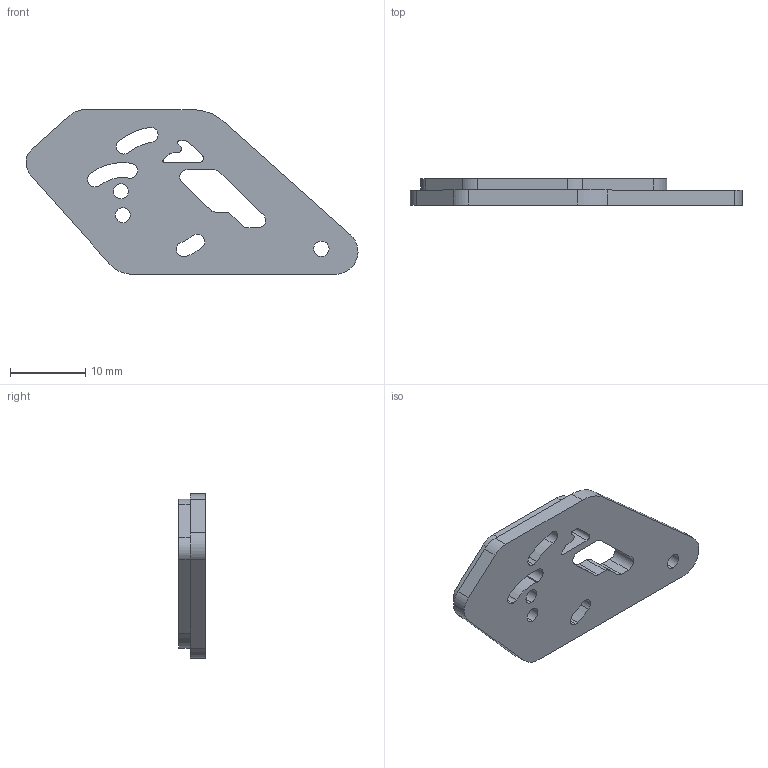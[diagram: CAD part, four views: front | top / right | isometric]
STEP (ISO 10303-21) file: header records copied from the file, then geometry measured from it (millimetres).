
FILE_DESCRIPTION (( 'STEP AP214' ), '1' );
FILE_NAME ('ｾｵﾍｷｵ譽ｨｵｹｽﾇｼﾓﾂﾝﾋｿｿﾗ｣ｩ.STEP', '2025-07-22T06:56:17', ( '' ), ( '' ), 'SwSTEP 2.0', 'SolidWorks 2024', '' );
FILE_SCHEMA (( 'AUTOMOTIVE_DESIGN' ));
Length unit declared in the file: millimetre
Products named in the file (1): 镜头垫（倒角加螺丝孔）
Bounding box: 44.18 x 3.5 x 21.9 mm (x, y, z)
Volume: 1780.7 mm3; surface area: 1884.5 mm2
Topology: 1 solids, 1 shells, 70 faces, 201 edges, 134 vertices
Faces by surface type: cylinder 44, plane 26
Entity records: 2388 total; most frequent: DIRECTION 431, CARTESIAN_POINT 406, ORIENTED_EDGE 402, EDGE_CURVE 201, AXIS2_PLACEMENT_3D 159, VERTEX_POINT 134, VECTOR 113, LINE 113
